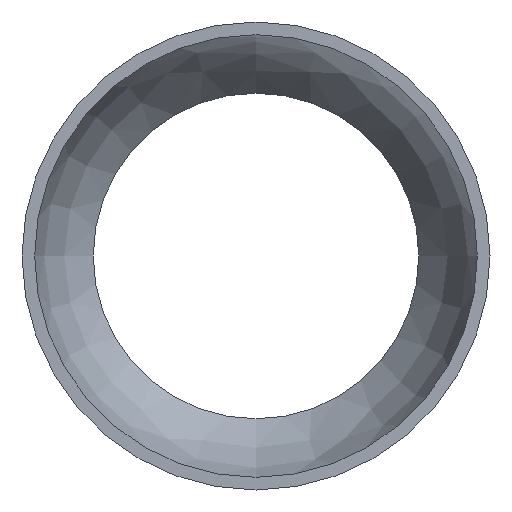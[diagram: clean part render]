
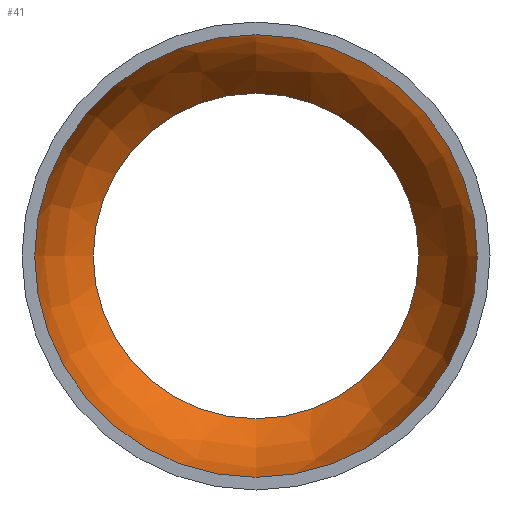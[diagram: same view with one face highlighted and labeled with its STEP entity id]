
A CAD part, front view. The second image highlights one B-rep face of the part: STEP entity #41.
In plain terms, the highlighted free-form (B-spline) face has degree [3, 3] with [4, 7] control points.
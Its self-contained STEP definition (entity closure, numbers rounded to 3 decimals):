
#41 = ADVANCED_FACE( '', ( #88, #89 ), #90, .F. );
#88 = FACE_OUTER_BOUND( '', #183, .T. );
#89 = FACE_OUTER_BOUND( '', #184, .T. );
#90 = ( BOUNDED_SURFACE(  )B_SPLINE_SURFACE( 3, 3, ( ( #187, #188, #189, #190, #191, #192, #193 ), ( #194, #195, #196, #197, #198, #199, #200 ), ( #201, #202, #203, #204, #205, #206, #207 ), ( #208, #209, #210, #211, #212, #213, #214 ) ), .UNSPECIFIED., .F., .T., .F. )B_SPLINE_SURFACE_WITH_KNOTS( ( 4, 4 ), ( 4, 3, 4 ), ( 0., 6.283 ), ( 0.09, 0.42, 0.75 ), .UNSPECIFIED. )GEOMETRIC_REPRESENTATION_ITEM(  )RATIONAL_B_SPLINE_SURFACE( ( ( 1., 0.333, 0.333, 1., 0.333, 0.333, 1. ), ( 0.964, 0.321, 0.321, 0.964, 0.321, 0.321, 0.964 ), ( 0.964, 0.321, 0.321, 0.964, 0.321, 0.321, 0.964 ), ( 1., 0.333, 0.333, 1., 0.333, 0.333, 1. ) ) )REPRESENTATION_ITEM( '' )SURFACE(  ) );
#183 = EDGE_LOOP( '', ( #273 ) );
#184 = EDGE_LOOP( '', ( #274 ) );
#187 = CARTESIAN_POINT( '', ( 0., 64.397, 80. ) );
#188 = CARTESIAN_POINT( '', ( 160., 64.397, 80. ) );
#189 = CARTESIAN_POINT( '', ( 160., 64.397, -80. ) );
#190 = CARTESIAN_POINT( '', ( 0., 64.397, -80. ) );
#191 = CARTESIAN_POINT( '', ( -160., 64.397, -80. ) );
#192 = CARTESIAN_POINT( '', ( -160., 64.397, 80. ) );
#193 = CARTESIAN_POINT( '', ( 0., 64.397, 80. ) );
#194 = CARTESIAN_POINT( '', ( 0., 46.558, 96.631 ) );
#195 = CARTESIAN_POINT( '', ( 193.262, 46.558, 96.631 ) );
#196 = CARTESIAN_POINT( '', ( 193.262, 46.558, -96.631 ) );
#197 = CARTESIAN_POINT( '', ( 0., 46.558, -96.631 ) );
#198 = CARTESIAN_POINT( '', ( -193.262, 46.558, -96.631 ) );
#199 = CARTESIAN_POINT( '', ( -193.262, 46.558, 96.631 ) );
#200 = CARTESIAN_POINT( '', ( 0., 46.558, 96.631 ) );
#201 = CARTESIAN_POINT( '', ( 0., 24.29, 106.581 ) );
#202 = CARTESIAN_POINT( '', ( 213.162, 24.29, 106.581 ) );
#203 = CARTESIAN_POINT( '', ( 213.162, 24.29, -106.581 ) );
#204 = CARTESIAN_POINT( '', ( 0., 24.29, -106.581 ) );
#205 = CARTESIAN_POINT( '', ( -213.162, 24.29, -106.581 ) );
#206 = CARTESIAN_POINT( '', ( -213.162, 24.29, 106.581 ) );
#207 = CARTESIAN_POINT( '', ( 0., 24.29, 106.581 ) );
#208 = CARTESIAN_POINT( '', ( 0., 0., 108.776 ) );
#209 = CARTESIAN_POINT( '', ( 217.552, 0., 108.776 ) );
#210 = CARTESIAN_POINT( '', ( 217.552, 0., -108.776 ) );
#211 = CARTESIAN_POINT( '', ( 0., 0., -108.776 ) );
#212 = CARTESIAN_POINT( '', ( -217.552, 0., -108.776 ) );
#213 = CARTESIAN_POINT( '', ( -217.552, 0., 108.776 ) );
#214 = CARTESIAN_POINT( '', ( 0., 0., 108.776 ) );
#273 = ORIENTED_EDGE( '', *, *, #344, .F. );
#274 = ORIENTED_EDGE( '', *, *, #345, .T. );
#344 = EDGE_CURVE( '', #376, #376, #377, .T. );
#345 = EDGE_CURVE( '', #378, #378, #379, .T. );
#376 = VERTEX_POINT( '', #415 );
#377 = CIRCLE( '', #416, 108.776 );
#378 = VERTEX_POINT( '', #417 );
#379 = CIRCLE( '', #418, 80. );
#415 = CARTESIAN_POINT( '', ( 0., 0., 108.776 ) );
#416 = AXIS2_PLACEMENT_3D( '', #455, #456, #457 );
#417 = CARTESIAN_POINT( '', ( 0., 64.397, 80. ) );
#418 = AXIS2_PLACEMENT_3D( '', #458, #459, #460 );
#455 = CARTESIAN_POINT( '', ( 0., 0., 0. ) );
#456 = DIRECTION( '', ( 0., 1., 0. ) );
#457 = DIRECTION( '', ( 0., 0., 1. ) );
#458 = CARTESIAN_POINT( '', ( 0., 64.397, 0. ) );
#459 = DIRECTION( '', ( 0., 1., 0. ) );
#460 = DIRECTION( '', ( 0., 0., 1. ) );
